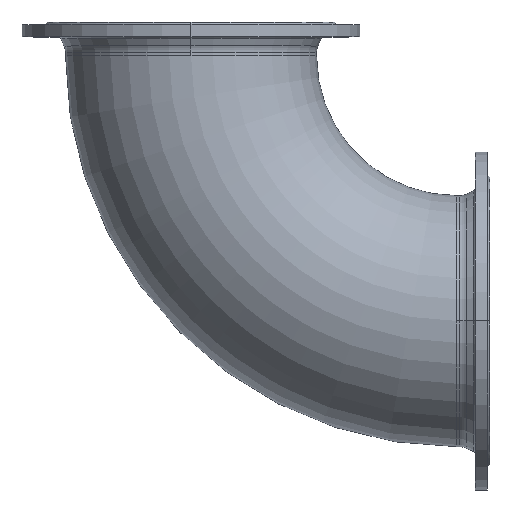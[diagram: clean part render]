
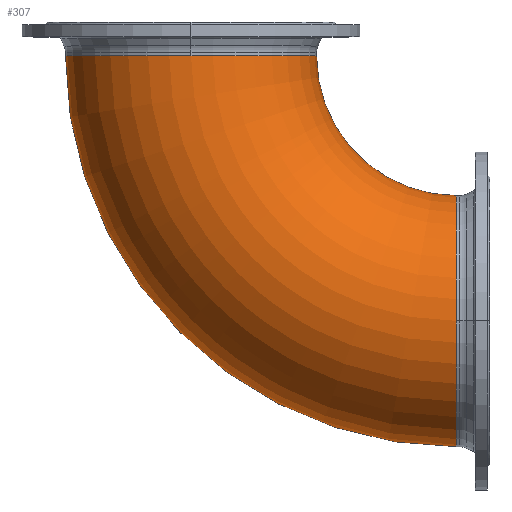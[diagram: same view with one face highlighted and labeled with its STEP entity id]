
A CAD part, top view. The second image highlights one B-rep face of the part: STEP entity #307.
In plain terms, the highlighted toroidal (fillet/blend) face has major radius 444 mm and minor radius 210 mm.
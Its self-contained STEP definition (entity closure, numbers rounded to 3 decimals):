
#17 = AXIS2_PLACEMENT_3D ( 'NONE', #5635, #2631, #4107 ) ;
#34 = ORIENTED_EDGE ( 'NONE', *, *, #6459, .F. ) ;
#62 = DIRECTION ( 'NONE',  ( 0., 0., 1. ) ) ;
#246 = DIRECTION ( 'NONE',  ( -1., 0., 0. ) ) ;
#307 = ADVANCED_FACE ( 'Defeatured_0_1', ( #5442 ), #4832, .T. ) ;
#351 = DIRECTION ( 'NONE',  ( 0., 0., 1. ) ) ;
#409 = DIRECTION ( 'NONE',  ( 1., 0., 0. ) ) ;
#497 = DIRECTION ( 'NONE',  ( 0., 1., 0. ) ) ;
#608 = VERTEX_POINT ( 'NONE', #5206 ) ;
#654 = CIRCLE ( 'NONE', #2931, 210. ) ;
#771 = EDGE_CURVE ( 'Defeatured_0_1+Defeatured_0_0+Defeatured_0_0+Defeatured_0_0', #608, #4311, #654, .T. ) ;
#799 = EDGE_CURVE ( 'NONE', #1402, #4311, #6370, .T. ) ;
#938 = CIRCLE ( 'NONE', #4694, 654. ) ;
#1216 = EDGE_LOOP ( 'NONE', ( #2108, #4372, #2904, #4373, #2439, #34 ) ) ;
#1402 = VERTEX_POINT ( 'NONE', #2341 ) ;
#1467 = CARTESIAN_POINT ( 'NONE',  ( 444., -56., 0. ) ) ;
#1493 = DIRECTION ( 'NONE',  ( -1., 0., 0. ) ) ;
#1655 = CARTESIAN_POINT ( 'NONE',  ( -210., -56., 0. ) ) ;
#1998 = CARTESIAN_POINT ( 'NONE',  ( 444., -56., 0. ) ) ;
#2108 = ORIENTED_EDGE ( 'NONE', *, *, #5979, .F. ) ;
#2240 = DIRECTION ( 'NONE',  ( 0., 0., 1. ) ) ;
#2341 = CARTESIAN_POINT ( 'NONE',  ( 210., -56., 0. ) ) ;
#2352 = VERTEX_POINT ( 'NONE', #4555 ) ;
#2439 = ORIENTED_EDGE ( 'NONE', *, *, #799, .F. ) ;
#2440 = DIRECTION ( 'NONE',  ( 1., 0., 0. ) ) ;
#2631 = DIRECTION ( 'NONE',  ( 0., 0., 1. ) ) ;
#2728 = CARTESIAN_POINT ( 'NONE',  ( 444., -500., 0. ) ) ;
#2817 = CIRCLE ( 'NONE', #4603, 210. ) ;
#2904 = ORIENTED_EDGE ( 'NONE', *, *, #3754, .T. ) ;
#2931 = AXIS2_PLACEMENT_3D ( 'NONE', #3971, #1493, #6027 ) ;
#2945 = CARTESIAN_POINT ( 'NONE',  ( 0., -56., 0. ) ) ;
#3498 = AXIS2_PLACEMENT_3D ( 'NONE', #1467, #62, #409 ) ;
#3535 = AXIS2_PLACEMENT_3D ( 'NONE', #2728, #246, #2240 ) ;
#3754 = EDGE_CURVE ( 'Defeatured_0_1+Defeatured_0_0+Defeatured_0_0+Defeatured_0_0', #2352, #608, #5289, .T. ) ;
#3971 = CARTESIAN_POINT ( 'NONE',  ( 444., -500., 0. ) ) ;
#4018 = CARTESIAN_POINT ( 'NONE',  ( 0., -56., 0. ) ) ;
#4107 = DIRECTION ( 'NONE',  ( 1., 0., 0. ) ) ;
#4190 = AXIS2_PLACEMENT_3D ( 'NONE', #2945, #497, #4235 ) ;
#4235 = DIRECTION ( 'NONE',  ( 0., 0., 1. ) ) ;
#4267 = CARTESIAN_POINT ( 'NONE',  ( 444., -290., 0. ) ) ;
#4311 = VERTEX_POINT ( 'NONE', #4267 ) ;
#4372 = ORIENTED_EDGE ( 'NONE', *, *, #5733, .T. ) ;
#4373 = ORIENTED_EDGE ( 'NONE', *, *, #771, .T. ) ;
#4503 = DIRECTION ( 'NONE',  ( 0., 1., 0. ) ) ;
#4555 = CARTESIAN_POINT ( 'NONE',  ( 444., -710., 0. ) ) ;
#4603 = AXIS2_PLACEMENT_3D ( 'NONE', #4018, #4503, #6008 ) ;
#4694 = AXIS2_PLACEMENT_3D ( 'NONE', #1998, #351, #2440 ) ;
#4832 = TOROIDAL_SURFACE ( 'NONE', #3498, 444., 210. ) ;
#4840 = VERTEX_POINT ( 'NONE', #5297 ) ;
#5049 = VERTEX_POINT ( 'NONE', #1655 ) ;
#5206 = CARTESIAN_POINT ( 'NONE',  ( 444., -500., 210. ) ) ;
#5289 = CIRCLE ( 'NONE', #3535, 210. ) ;
#5297 = CARTESIAN_POINT ( 'NONE',  ( 0., -56., 210. ) ) ;
#5442 = FACE_OUTER_BOUND ( 'NONE', #1216, .T. ) ;
#5635 = CARTESIAN_POINT ( 'NONE',  ( 444., -56., 0. ) ) ;
#5733 = EDGE_CURVE ( 'NONE', #5049, #2352, #938, .T. ) ;
#5961 = CIRCLE ( 'NONE', #4190, 210. ) ;
#5979 = EDGE_CURVE ( 'Defeatured_0_2+Defeatured_0_1+Defeatured_0_1+Defeatured_0_1', #5049, #4840, #2817, .T. ) ;
#6008 = DIRECTION ( 'NONE',  ( 0., 0., 1. ) ) ;
#6027 = DIRECTION ( 'NONE',  ( 0., 0., 1. ) ) ;
#6370 = CIRCLE ( 'NONE', #17, 234. ) ;
#6459 = EDGE_CURVE ( 'Defeatured_0_2+Defeatured_0_1+Defeatured_0_1+Defeatured_0_1', #4840, #1402, #5961, .T. ) ;
